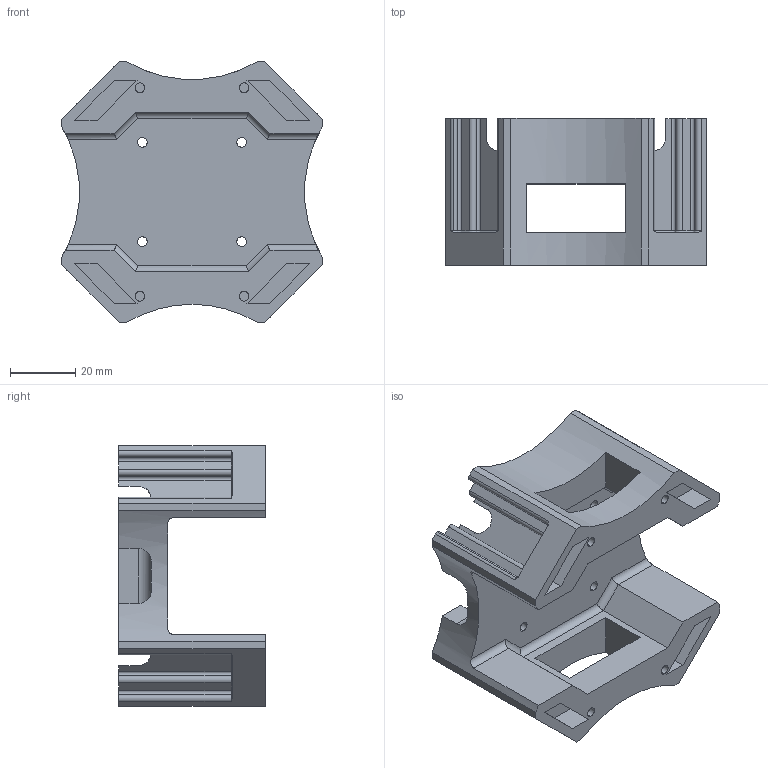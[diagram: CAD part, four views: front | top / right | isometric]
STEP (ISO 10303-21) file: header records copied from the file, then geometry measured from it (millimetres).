
FILE_DESCRIPTION (( 'STEP AP214' ), '1' );
FILE_NAME ('Main Body.STEP', '2026-03-16T09:35:18', ( '' ), ( '' ), 'SwSTEP 2.0', 'SolidWorks 2026', '' );
FILE_SCHEMA (( 'AUTOMOTIVE_DESIGN' ));
Length unit declared in the file: millimetre
Products named in the file (1): Main Body
Bounding box: 80 x 45 x 80 mm (x, y, z)
Volume: 75418.9 mm3; surface area: 32920.2 mm2
Topology: 1 solids, 1 shells, 281 faces, 710 edges, 449 vertices
Faces by surface type: plane 141, cylinder 100, cone 40
Entity records: 8654 total; most frequent: CARTESIAN_POINT 1793, DIRECTION 1437, ORIENTED_EDGE 1420, EDGE_CURVE 710, AXIS2_PLACEMENT_3D 491, VECTOR 455, LINE 455, VERTEX_POINT 449
